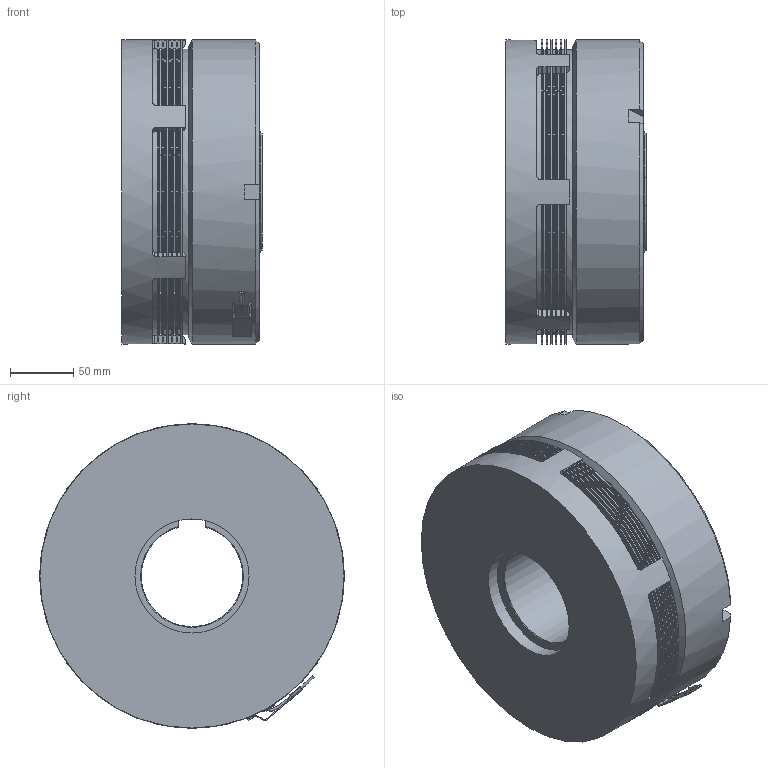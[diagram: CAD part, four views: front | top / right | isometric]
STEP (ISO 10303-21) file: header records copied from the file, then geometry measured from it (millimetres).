
FILE_DESCRIPTION((''),'2;1');
FILE_NAME('\\Srv-tecnico\dati\UFFICIO TECNICO\ARCHIVIO INVENTOR\DISEGNI\UFFICIO TECNICO\05_Friz_Elettromagnetiche_Lamellari\05_05 ESB_S\05_05_240_01 ESB240_S\05_05_240_01 ESB240_S.stp','2011-11-04T12:31:30',('Matteocad'),(''),'Autodesk Inventor 2010','Autodesk Inventor 2010','');
FILE_SCHEMA(('AUTOMOTIVE_DESIGN { 1 0 10303 214 1 1 1 1 }'));
Length unit declared in the file: millimetre
Products named in the file (2): 05_05_240_01 ESB240_S.iam (Livello di dettaglio sostituto1); 05_05_240_01 ESB240_S_Sostituto_1
Assembly tree (1 placements, depth 2):
  05_05_240_01 ESB240_S.iam (Livello di dettaglio sostituto1)
    05_05_240_01 ESB240_S_Sostituto_1
Bounding box: 110.5 x 240.5 x 240 mm (x, y, z)
Volume: 3549088 mm3; surface area: 1029599.4 mm2
Topology: 9 solids, 9 shells, 4372 faces, 15779 edges, 10403 vertices
Faces by surface type: cylinder 3739, plane 596, bspline 21, cone 16
Full cylindrical faces by diameter (mm): 4 x1, 9 x1, 9.5 x1, 11 x1, 90 x1, 95 x2, 112 x2, 130 x2, 140 x1, 145 x2, 149 x1, 165 x2, 176 x2, 191 x1, 216 x2, 225 x3, 227 x1, 240 x2
Entity records: 181749 total; most frequent: DIRECTION 34407, CARTESIAN_POINT 31650, ORIENTED_EDGE 31446, EDGE_CURVE 15723, AXIS2_PLACEMENT_3D 14381, VERTEX_POINT 10386, CIRCLE 10000, VECTOR 5645
